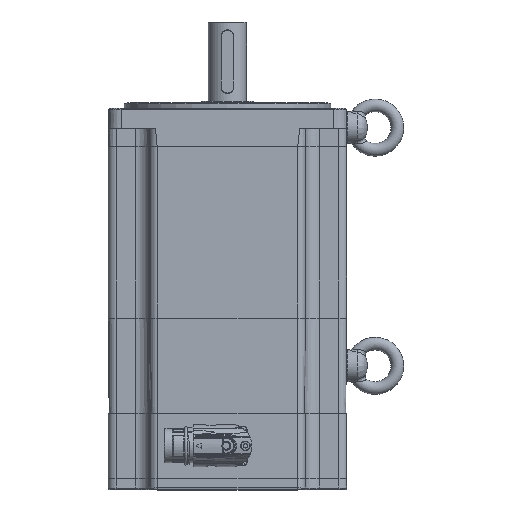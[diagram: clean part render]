
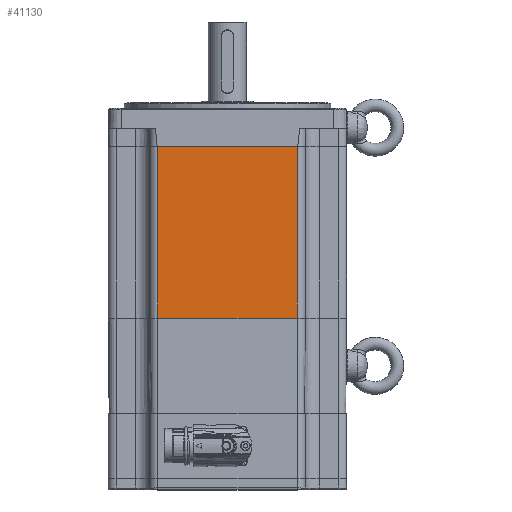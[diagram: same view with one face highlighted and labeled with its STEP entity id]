
A CAD part, top view. The second image highlights one B-rep face of the part: STEP entity #41130.
In plain terms, the highlighted planar face has unit normal (0, 0, 1).
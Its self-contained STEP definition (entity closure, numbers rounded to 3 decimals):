
#2466=LINE('',#66253,#4244);
#2469=LINE('',#66286,#4247);
#2487=LINE('',#66364,#4265);
#2488=LINE('',#66365,#4266);
#4244=VECTOR('',#50094,1000.);
#4247=VECTOR('',#50125,1000.);
#4265=VECTOR('',#50203,1000.);
#4266=VECTOR('',#50204,1000.);
#5090=PLANE('',#43766);
#12768=ORIENTED_EDGE('',*,*,#17826,.F.);
#12769=ORIENTED_EDGE('',*,*,#17879,.T.);
#12770=ORIENTED_EDGE('',*,*,#17842,.T.);
#12771=ORIENTED_EDGE('',*,*,#17880,.T.);
#17826=EDGE_CURVE('',#20955,#20956,#2466,.T.);
#17842=EDGE_CURVE('',#20972,#20970,#2469,.T.);
#17879=EDGE_CURVE('',#20955,#20972,#2487,.T.);
#17880=EDGE_CURVE('',#20970,#20956,#2488,.F.);
#20955=VERTEX_POINT('',#66252);
#20956=VERTEX_POINT('',#66254);
#20970=VERTEX_POINT('',#66284);
#20972=VERTEX_POINT('',#66287);
#24415=EDGE_LOOP('',(#12768,#12769,#12770,#12771));
#26757=FACE_BOUND('',#24415,.T.);
#41130=ADVANCED_FACE('',(#26757),#5090,.T.);
#43766=AXIS2_PLACEMENT_3D('',#66363,#50201,#50202);
#50094=DIRECTION('',(0.,-1.,0.));
#50125=DIRECTION('',(0.,-1.,0.));
#50201=DIRECTION('',(0.,0.,1.));
#50202=DIRECTION('',(0.,-1.,0.));
#50203=DIRECTION('',(-1.,0.,0.));
#50204=DIRECTION('',(-1.,0.,0.));
#66252=CARTESIAN_POINT('',(-1.,44.,75.));
#66253=CARTESIAN_POINT('',(-1.,75.,75.));
#66254=CARTESIAN_POINT('',(-1.,-44.,75.));
#66284=CARTESIAN_POINT('',(-109.,-44.,75.));
#66286=CARTESIAN_POINT('',(-109.,75.,75.));
#66287=CARTESIAN_POINT('',(-109.,44.,75.));
#66363=CARTESIAN_POINT('',(-300.,75.,75.));
#66364=CARTESIAN_POINT('',(-300.,44.,75.));
#66365=CARTESIAN_POINT('',(0.,-44.,75.));
